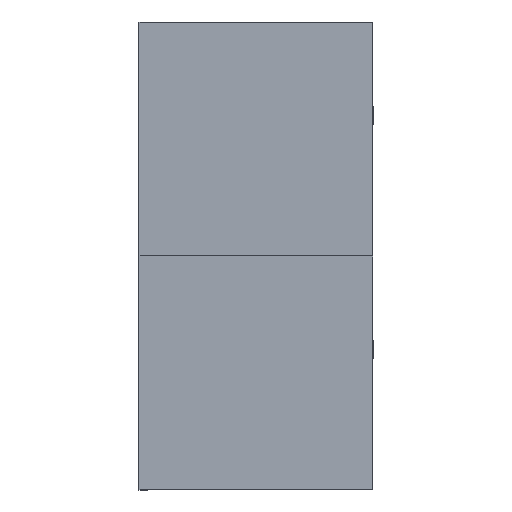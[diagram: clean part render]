
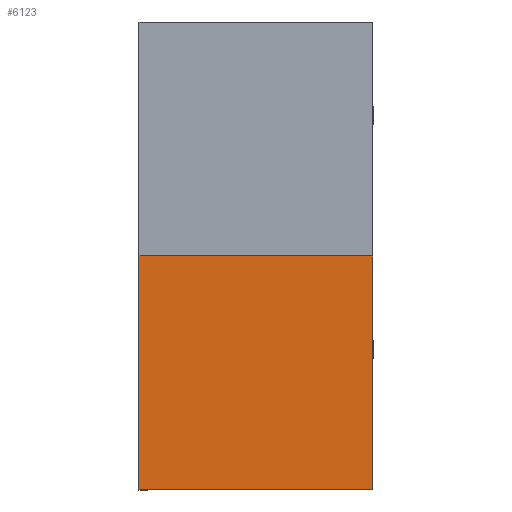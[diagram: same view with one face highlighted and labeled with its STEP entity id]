
A CAD part, left-side view. The second image highlights one B-rep face of the part: STEP entity #6123.
In plain terms, the highlighted planar face has unit normal (-1, 0, 0).
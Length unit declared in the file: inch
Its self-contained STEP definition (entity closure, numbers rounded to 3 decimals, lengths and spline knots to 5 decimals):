
#64 = CARTESIAN_POINT ( 'NONE',  ( -213.82668, -1.84124, 17.77663 ) ) ;
#211 = VERTEX_POINT ( 'NONE', #3428 ) ;
#376 = CARTESIAN_POINT ( 'NONE',  ( -213.82668, -0.85699, 16.79238 ) ) ;
#810 = DIRECTION ( 'NONE',  ( 0., 0., -1. ) ) ;
#897 = ORIENTED_EDGE ( 'NONE', *, *, #4177, .F. ) ;
#904 = CARTESIAN_POINT ( 'NONE',  ( -213.82668, -2.8255, 16.79238 ) ) ;
#1120 = ORIENTED_EDGE ( 'NONE', *, *, #3342, .F. ) ;
#1248 = CARTESIAN_POINT ( 'NONE',  ( -213.82668, -2.8255, 18.76089 ) ) ;
#1329 = LINE ( 'NONE', #1248, #2505 ) ;
#1375 = VECTOR ( 'NONE', #1730, 39.37008 ) ;
#1594 = CARTESIAN_POINT ( 'NONE',  ( -213.82668, -2.8255, 16.79238 ) ) ;
#1730 = DIRECTION ( 'NONE',  ( 0., -1., 0. ) ) ;
#2106 = DIRECTION ( 'NONE',  ( 0., 0., -1. ) ) ;
#2505 = VECTOR ( 'NONE', #810, 39.37008 ) ;
#2697 = EDGE_CURVE ( 'NONE', #4444, #4915, #5882, .T. ) ;
#2731 = DIRECTION ( 'NONE',  ( 1., 0., 0. ) ) ;
#2871 = EDGE_LOOP ( 'NONE', ( #3908, #6418, #897, #1120 ) ) ;
#3342 = EDGE_CURVE ( 'NONE', #6132, #211, #5570, .T. ) ;
#3428 = CARTESIAN_POINT ( 'NONE',  ( -213.82668, -0.85699, 16.79238 ) ) ;
#3579 = VECTOR ( 'NONE', #6714, 39.37008 ) ;
#3838 = AXIS2_PLACEMENT_3D ( 'NONE', #64, #2731, #2106 ) ;
#3908 = ORIENTED_EDGE ( 'NONE', *, *, #5109, .F. ) ;
#4107 = LINE ( 'NONE', #376, #3579 ) ;
#4177 = EDGE_CURVE ( 'NONE', #211, #4444, #4107, .T. ) ;
#4444 = VERTEX_POINT ( 'NONE', #4855 ) ;
#4855 = CARTESIAN_POINT ( 'NONE',  ( -213.82668, -0.85699, 18.76089 ) ) ;
#4915 = VERTEX_POINT ( 'NONE', #5862 ) ;
#5071 = DIRECTION ( 'NONE',  ( 0., 1., 0. ) ) ;
#5109 = EDGE_CURVE ( 'NONE', #4915, #6132, #1329, .T. ) ;
#5551 = CARTESIAN_POINT ( 'NONE',  ( -213.82668, -0.85699, 18.76089 ) ) ;
#5570 = LINE ( 'NONE', #904, #6745 ) ;
#5814 = PLANE ( 'NONE',  #3838 ) ;
#5862 = CARTESIAN_POINT ( 'NONE',  ( -213.82668, -2.8255, 18.76089 ) ) ;
#5882 = LINE ( 'NONE', #5551, #1375 ) ;
#6123 = ADVANCED_FACE ( 'NONE', ( #6343 ), #5814, .F. ) ;
#6132 = VERTEX_POINT ( 'NONE', #1594 ) ;
#6343 = FACE_OUTER_BOUND ( 'NONE', #2871, .T. ) ;
#6418 = ORIENTED_EDGE ( 'NONE', *, *, #2697, .F. ) ;
#6714 = DIRECTION ( 'NONE',  ( 0., 0., 1. ) ) ;
#6745 = VECTOR ( 'NONE', #5071, 39.37008 ) ;
